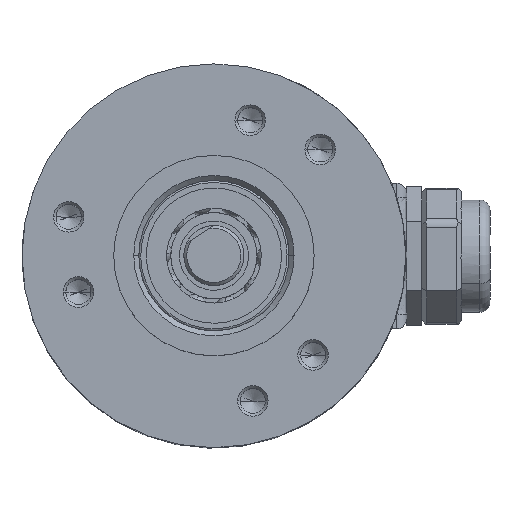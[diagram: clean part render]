
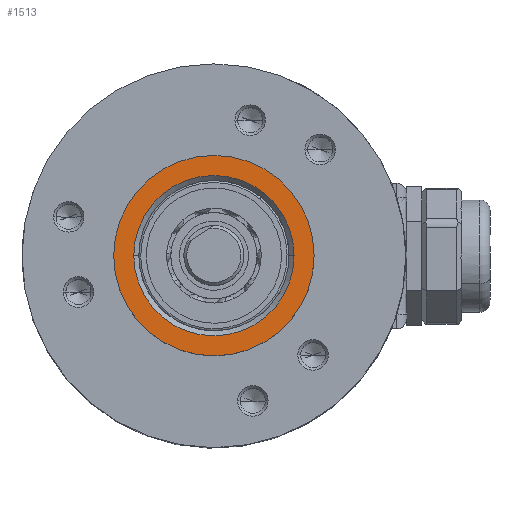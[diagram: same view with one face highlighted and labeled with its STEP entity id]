
A CAD part, top view. The second image highlights one B-rep face of the part: STEP entity #1513.
In plain terms, the highlighted planar face has unit normal (0, 0, 1) as drawn and (0, 1, 0) by its records, which use the part's own axes.
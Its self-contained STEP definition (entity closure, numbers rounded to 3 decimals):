
#599 = AXIS2_PLACEMENT_3D ( 'NONE', #23947, #5820, #13873 ) ;
#730 = ORIENTED_EDGE ( 'NONE', *, *, #14043, .T. ) ;
#1065 = DIRECTION ( 'NONE',  ( 0., 0., -1. ) ) ;
#1513 = ADVANCED_FACE ( 'NONE', ( #15369, #23964 ), #21836, .F. ) ;
#2768 = ORIENTED_EDGE ( 'NONE', *, *, #22562, .F. ) ;
#2907 = CARTESIAN_POINT ( 'NONE',  ( 0., 52., 0. ) ) ;
#3419 = ORIENTED_EDGE ( 'NONE', *, *, #25138, .F. ) ;
#3578 = CARTESIAN_POINT ( 'NONE',  ( -7.5, 52., 0. ) ) ;
#3674 = CARTESIAN_POINT ( 'NONE',  ( 0., 52., 8. ) ) ;
#5820 = DIRECTION ( 'NONE',  ( 0., -1., 0. ) ) ;
#6500 = VERTEX_POINT ( 'NONE', #14954 ) ;
#6767 = DIRECTION ( 'NONE',  ( 0., -1., 0. ) ) ;
#7822 = DIRECTION ( 'NONE',  ( 0., 0., -1. ) ) ;
#8079 = CARTESIAN_POINT ( 'NONE',  ( 0., 52., -8. ) ) ;
#9128 = DIRECTION ( 'NONE',  ( 0., -1., 0. ) ) ;
#9595 = ORIENTED_EDGE ( 'NONE', *, *, #17277, .T. ) ;
#9625 = CIRCLE ( 'NONE', #16395, 10. ) ;
#10556 = AXIS2_PLACEMENT_3D ( 'NONE', #16675, #6767, #14558 ) ;
#10811 = EDGE_LOOP ( 'NONE', ( #9595, #730 ) ) ;
#11316 = VERTEX_POINT ( 'NONE', #3674 ) ;
#12808 = DIRECTION ( 'NONE',  ( 0., -1., 0. ) ) ;
#13873 = DIRECTION ( 'NONE',  ( 0., 0., -1. ) ) ;
#14043 = EDGE_CURVE ( 'NONE', #24116, #11316, #25886, .T. ) ;
#14558 = DIRECTION ( 'NONE',  ( 0., 0., -1. ) ) ;
#14950 = CARTESIAN_POINT ( 'NONE',  ( 0., 52., 0. ) ) ;
#14954 = CARTESIAN_POINT ( 'NONE',  ( 0., 52., 10. ) ) ;
#15369 = FACE_BOUND ( 'NONE', #10811, .T. ) ;
#15385 = CIRCLE ( 'NONE', #599, 8. ) ;
#16395 = AXIS2_PLACEMENT_3D ( 'NONE', #2907, #12808, #1065 ) ;
#16430 = VERTEX_POINT ( 'NONE', #17677 ) ;
#16675 = CARTESIAN_POINT ( 'NONE',  ( 0., 52., 0. ) ) ;
#17205 = DIRECTION ( 'NONE',  ( 0., 0., -1. ) ) ;
#17277 = EDGE_CURVE ( 'NONE', #11316, #24116, #15385, .T. ) ;
#17677 = CARTESIAN_POINT ( 'NONE',  ( 0., 52., -10. ) ) ;
#17856 = DIRECTION ( 'NONE',  ( 0., -1., 0. ) ) ;
#21323 = AXIS2_PLACEMENT_3D ( 'NONE', #3578, #17856, #7822 ) ;
#21836 = PLANE ( 'NONE',  #21323 ) ;
#21980 = CIRCLE ( 'NONE', #10556, 10. ) ;
#22562 = EDGE_CURVE ( 'NONE', #6500, #16430, #9625, .T. ) ;
#23947 = CARTESIAN_POINT ( 'NONE',  ( 0., 52., 0. ) ) ;
#23964 = FACE_OUTER_BOUND ( 'NONE', #24130, .T. ) ;
#24116 = VERTEX_POINT ( 'NONE', #8079 ) ;
#24130 = EDGE_LOOP ( 'NONE', ( #3419, #2768 ) ) ;
#24189 = AXIS2_PLACEMENT_3D ( 'NONE', #14950, #9128, #17205 ) ;
#25138 = EDGE_CURVE ( 'NONE', #16430, #6500, #21980, .T. ) ;
#25886 = CIRCLE ( 'NONE', #24189, 8. ) ;
